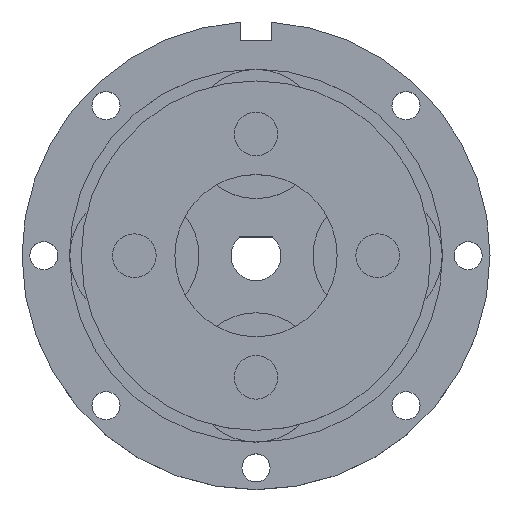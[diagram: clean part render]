
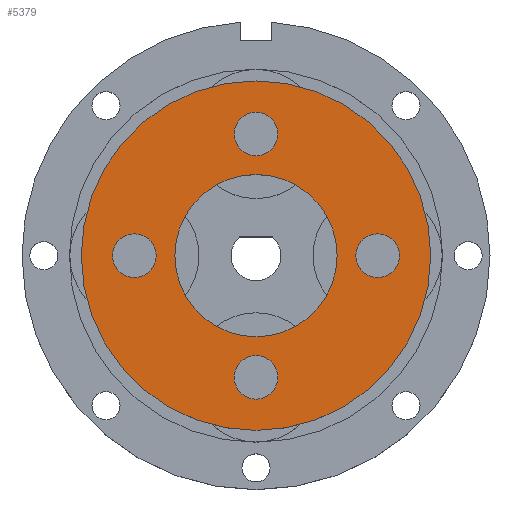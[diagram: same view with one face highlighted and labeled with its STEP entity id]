
A CAD part, top view. The second image highlights one B-rep face of the part: STEP entity #5379.
In plain terms, the highlighted planar face has unit normal (0, 0, 1).
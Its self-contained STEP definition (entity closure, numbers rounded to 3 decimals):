
#40 = CIRCLE ( 'NONE', #2340, 13. ) ;
#145 = EDGE_CURVE ( 'NONE', #7947, #5155, #5153, .T. ) ;
#205 = FACE_BOUND ( 'NONE', #3553, .T. ) ;
#211 = DIRECTION ( 'NONE',  ( 0., 0., 1. ) ) ;
#250 = FACE_BOUND ( 'NONE', #5108, .T. ) ;
#350 = DIRECTION ( 'NONE',  ( 1., 0., 0. ) ) ;
#455 = DIRECTION ( 'NONE',  ( -1., 0., 0. ) ) ;
#548 = EDGE_LOOP ( 'NONE', ( #6798, #6111 ) ) ;
#560 = AXIS2_PLACEMENT_3D ( 'NONE', #5251, #4538, #455 ) ;
#597 = AXIS2_PLACEMENT_3D ( 'NONE', #739, #7650, #4185 ) ;
#699 = CARTESIAN_POINT ( 'NONE',  ( 0., 0., 8.35 ) ) ;
#739 = CARTESIAN_POINT ( 'NONE',  ( -19.5, 0., 8.35 ) ) ;
#875 = CIRCLE ( 'NONE', #5598, 3.5 ) ;
#1069 = FACE_BOUND ( 'NONE', #1452, .T. ) ;
#1141 = AXIS2_PLACEMENT_3D ( 'NONE', #1266, #5473, #3333 ) ;
#1180 = DIRECTION ( 'NONE',  ( 0., 0., 1. ) ) ;
#1227 = AXIS2_PLACEMENT_3D ( 'NONE', #8782, #7885, #6589 ) ;
#1266 = CARTESIAN_POINT ( 'NONE',  ( 19.5, 0., 8.35 ) ) ;
#1452 = EDGE_LOOP ( 'NONE', ( #2822, #1519 ) ) ;
#1519 = ORIENTED_EDGE ( 'NONE', *, *, #2752, .F. ) ;
#1683 = ORIENTED_EDGE ( 'NONE', *, *, #7102, .F. ) ;
#1894 = CARTESIAN_POINT ( 'NONE',  ( 28., 0., 8.35 ) ) ;
#1934 = ORIENTED_EDGE ( 'NONE', *, *, #4546, .T. ) ;
#1945 = EDGE_CURVE ( 'NONE', #6968, #6329, #6073, .T. ) ;
#2089 = CARTESIAN_POINT ( 'NONE',  ( 3.5, 19.5, 8.35 ) ) ;
#2160 = ORIENTED_EDGE ( 'NONE', *, *, #4725, .T. ) ;
#2179 = CARTESIAN_POINT ( 'NONE',  ( -19.5, 0., 8.35 ) ) ;
#2186 = DIRECTION ( 'NONE',  ( 0., 0., 1. ) ) ;
#2282 = CIRCLE ( 'NONE', #560, 3.5 ) ;
#2340 = AXIS2_PLACEMENT_3D ( 'NONE', #699, #6181, #6892 ) ;
#2632 = VERTEX_POINT ( 'NONE', #7298 ) ;
#2684 = DIRECTION ( 'NONE',  ( 1., 0., 0. ) ) ;
#2749 = VERTEX_POINT ( 'NONE', #4102 ) ;
#2752 = EDGE_CURVE ( 'NONE', #2632, #6637, #40, .T. ) ;
#2761 = EDGE_LOOP ( 'NONE', ( #2160, #1934 ) ) ;
#2822 = ORIENTED_EDGE ( 'NONE', *, *, #3846, .F. ) ;
#2998 = CIRCLE ( 'NONE', #1141, 3.5 ) ;
#3086 = CARTESIAN_POINT ( 'NONE',  ( -13., 0., 8.35 ) ) ;
#3238 = CARTESIAN_POINT ( 'NONE',  ( 0., 0., 8.35 ) ) ;
#3333 = DIRECTION ( 'NONE',  ( 0., -1., 0. ) ) ;
#3345 = ORIENTED_EDGE ( 'NONE', *, *, #3566, .F. ) ;
#3437 = DIRECTION ( 'NONE',  ( 0., 1., 0. ) ) ;
#3464 = CIRCLE ( 'NONE', #597, 3.5 ) ;
#3472 = VERTEX_POINT ( 'NONE', #1894 ) ;
#3553 = EDGE_LOOP ( 'NONE', ( #1683, #8869 ) ) ;
#3566 = EDGE_CURVE ( 'NONE', #2749, #7456, #5367, .T. ) ;
#3755 = FACE_OUTER_BOUND ( 'NONE', #2761, .T. ) ;
#3846 = EDGE_CURVE ( 'NONE', #6637, #2632, #4508, .T. ) ;
#4102 = CARTESIAN_POINT ( 'NONE',  ( 3.5, -19.5, 8.35 ) ) ;
#4185 = DIRECTION ( 'NONE',  ( 0., 1., 0. ) ) ;
#4508 = CIRCLE ( 'NONE', #1227, 13. ) ;
#4538 = DIRECTION ( 'NONE',  ( 0., 0., 1. ) ) ;
#4546 = EDGE_CURVE ( 'NONE', #3472, #8357, #7547, .T. ) ;
#4658 = AXIS2_PLACEMENT_3D ( 'NONE', #8338, #2186, #4919 ) ;
#4713 = DIRECTION ( 'NONE',  ( 1., 0., 0. ) ) ;
#4725 = EDGE_CURVE ( 'NONE', #8357, #3472, #7692, .T. ) ;
#4755 = CARTESIAN_POINT ( 'NONE',  ( -3.5, 19.5, 8.35 ) ) ;
#4813 = AXIS2_PLACEMENT_3D ( 'NONE', #6506, #7133, #5135 ) ;
#4919 = DIRECTION ( 'NONE',  ( -1., 0., 0. ) ) ;
#4943 = VERTEX_POINT ( 'NONE', #7141 ) ;
#5049 = FACE_BOUND ( 'NONE', #548, .T. ) ;
#5081 = DIRECTION ( 'NONE',  ( 0., 0., 1. ) ) ;
#5108 = EDGE_LOOP ( 'NONE', ( #3345, #8661 ) ) ;
#5135 = DIRECTION ( 'NONE',  ( 1., 0., 0. ) ) ;
#5139 = CARTESIAN_POINT ( 'NONE',  ( -19.5, 3.5, 8.35 ) ) ;
#5153 = CIRCLE ( 'NONE', #6753, 3.5 ) ;
#5155 = VERTEX_POINT ( 'NONE', #8799 ) ;
#5251 = CARTESIAN_POINT ( 'NONE',  ( 0., -19.5, 8.35 ) ) ;
#5367 = CIRCLE ( 'NONE', #4658, 3.5 ) ;
#5379 = ADVANCED_FACE ( 'NONE', ( #5049, #250, #205, #7220, #3755, #1069 ), #8521, .T. ) ;
#5420 = CARTESIAN_POINT ( 'NONE',  ( 0., 0., 8.35 ) ) ;
#5473 = DIRECTION ( 'NONE',  ( 0., 0., 1. ) ) ;
#5598 = AXIS2_PLACEMENT_3D ( 'NONE', #8287, #7662, #8874 ) ;
#5751 = CIRCLE ( 'NONE', #7905, 3.5 ) ;
#5822 = EDGE_CURVE ( 'NONE', #7456, #2749, #2282, .T. ) ;
#5950 = EDGE_CURVE ( 'NONE', #4943, #7265, #2998, .T. ) ;
#6071 = EDGE_LOOP ( 'NONE', ( #7530, #7352 ) ) ;
#6073 = CIRCLE ( 'NONE', #8070, 3.5 ) ;
#6111 = ORIENTED_EDGE ( 'NONE', *, *, #145, .F. ) ;
#6123 = AXIS2_PLACEMENT_3D ( 'NONE', #3238, #1180, #2684 ) ;
#6181 = DIRECTION ( 'NONE',  ( 0., 0., 1. ) ) ;
#6329 = VERTEX_POINT ( 'NONE', #4755 ) ;
#6397 = CARTESIAN_POINT ( 'NONE',  ( -3.5, -19.5, 8.35 ) ) ;
#6409 = CARTESIAN_POINT ( 'NONE',  ( 19.5, 0., 8.35 ) ) ;
#6468 = CARTESIAN_POINT ( 'NONE',  ( 0., 19.5, 8.35 ) ) ;
#6494 = CARTESIAN_POINT ( 'NONE',  ( -28., 0., 8.35 ) ) ;
#6506 = CARTESIAN_POINT ( 'NONE',  ( 0., 0., 8.35 ) ) ;
#6589 = DIRECTION ( 'NONE',  ( 1., 0., 0. ) ) ;
#6637 = VERTEX_POINT ( 'NONE', #3086 ) ;
#6753 = AXIS2_PLACEMENT_3D ( 'NONE', #2179, #8873, #3437 ) ;
#6798 = ORIENTED_EDGE ( 'NONE', *, *, #8583, .F. ) ;
#6828 = EDGE_CURVE ( 'NONE', #6329, #6968, #875, .T. ) ;
#6892 = DIRECTION ( 'NONE',  ( 1., 0., 0. ) ) ;
#6968 = VERTEX_POINT ( 'NONE', #2089 ) ;
#7102 = EDGE_CURVE ( 'NONE', #7265, #4943, #5751, .T. ) ;
#7133 = DIRECTION ( 'NONE',  ( 0., 0., 1. ) ) ;
#7141 = CARTESIAN_POINT ( 'NONE',  ( 19.5, -3.5, 8.35 ) ) ;
#7220 = FACE_BOUND ( 'NONE', #6071, .T. ) ;
#7265 = VERTEX_POINT ( 'NONE', #7344 ) ;
#7298 = CARTESIAN_POINT ( 'NONE',  ( 13., 0., 8.35 ) ) ;
#7344 = CARTESIAN_POINT ( 'NONE',  ( 19.5, 3.5, 8.35 ) ) ;
#7352 = ORIENTED_EDGE ( 'NONE', *, *, #1945, .F. ) ;
#7456 = VERTEX_POINT ( 'NONE', #6397 ) ;
#7530 = ORIENTED_EDGE ( 'NONE', *, *, #6828, .F. ) ;
#7547 = CIRCLE ( 'NONE', #8673, 28. ) ;
#7650 = DIRECTION ( 'NONE',  ( 0., 0., 1. ) ) ;
#7662 = DIRECTION ( 'NONE',  ( 0., 0., 1. ) ) ;
#7692 = CIRCLE ( 'NONE', #6123, 28. ) ;
#7885 = DIRECTION ( 'NONE',  ( 0., 0., 1. ) ) ;
#7905 = AXIS2_PLACEMENT_3D ( 'NONE', #6409, #5081, #7922 ) ;
#7922 = DIRECTION ( 'NONE',  ( 0., -1., 0. ) ) ;
#7947 = VERTEX_POINT ( 'NONE', #5139 ) ;
#8070 = AXIS2_PLACEMENT_3D ( 'NONE', #6468, #211, #350 ) ;
#8287 = CARTESIAN_POINT ( 'NONE',  ( 0., 19.5, 8.35 ) ) ;
#8338 = CARTESIAN_POINT ( 'NONE',  ( 0., -19.5, 8.35 ) ) ;
#8357 = VERTEX_POINT ( 'NONE', #6494 ) ;
#8521 = PLANE ( 'NONE',  #4813 ) ;
#8583 = EDGE_CURVE ( 'NONE', #5155, #7947, #3464, .T. ) ;
#8661 = ORIENTED_EDGE ( 'NONE', *, *, #5822, .F. ) ;
#8673 = AXIS2_PLACEMENT_3D ( 'NONE', #5420, #8848, #4713 ) ;
#8782 = CARTESIAN_POINT ( 'NONE',  ( 0., 0., 8.35 ) ) ;
#8799 = CARTESIAN_POINT ( 'NONE',  ( -19.5, -3.5, 8.35 ) ) ;
#8848 = DIRECTION ( 'NONE',  ( 0., 0., 1. ) ) ;
#8869 = ORIENTED_EDGE ( 'NONE', *, *, #5950, .F. ) ;
#8873 = DIRECTION ( 'NONE',  ( 0., 0., 1. ) ) ;
#8874 = DIRECTION ( 'NONE',  ( 1., 0., 0. ) ) ;
